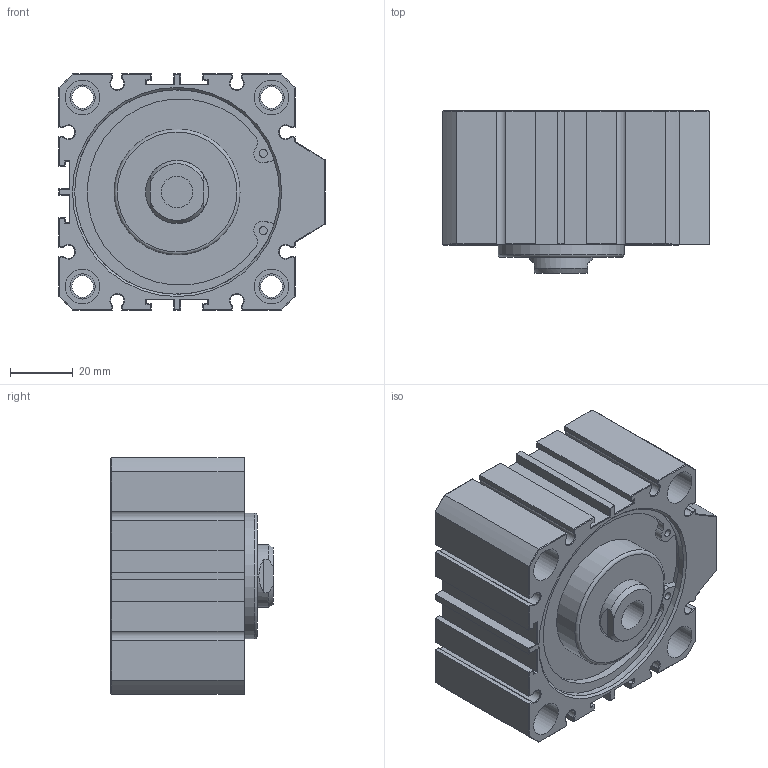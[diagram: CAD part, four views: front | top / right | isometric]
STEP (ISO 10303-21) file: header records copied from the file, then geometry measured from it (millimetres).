
FILE_DESCRIPTION(/* description */ (''),/* implementation_level */ '2;1');
FILE_NAME(/* name */ 'AJC-SD63X10N',/* time_stamp */ '2019-06-14T14:50:56+08:00',/* author */ ('JEFF HUANG'),/* organization */ ('TAIWAN AMAC CLAMP INDUSTRIAL CO., LTD.'),/* preprocessor_version */ 'ST-DEVELOPER v16.7',/* originating_system */ 'DEX',/* authorisation */ $);
FILE_SCHEMA (('AUTOMOTIVE_DESIGN {1 0 10303 214 3 1 1}'));
Length unit declared in the file: millimetre
Products named in the file (1): AJC-SD63X10N
Bounding box: 84.5 x 51.5 x 75 mm (x, y, z)
Volume: 208678.4 mm3; surface area: 39383.5 mm2
Topology: 1 solids, 1 shells, 382 faces, 854 edges, 470 vertices
Faces by surface type: plane 246, cylinder 72, cone 62, torus 2
Full cylindrical faces by diameter (mm): 2.5 x4, 6.8 x4, 8 x8, 10 x1, 11 x8, 12.301 x2, 20 x1, 40 x1, 47 x1, 65 x2
Entity records: 12512 total; most frequent: DIRECTION 1708, CARTESIAN_POINT 1691, ORIENTED_EDGE 1562, EDGE_CURVE 781, LINE 580, VECTOR 580, AXIS2_PLACEMENT_3D 564, VERTEX_POINT 467
